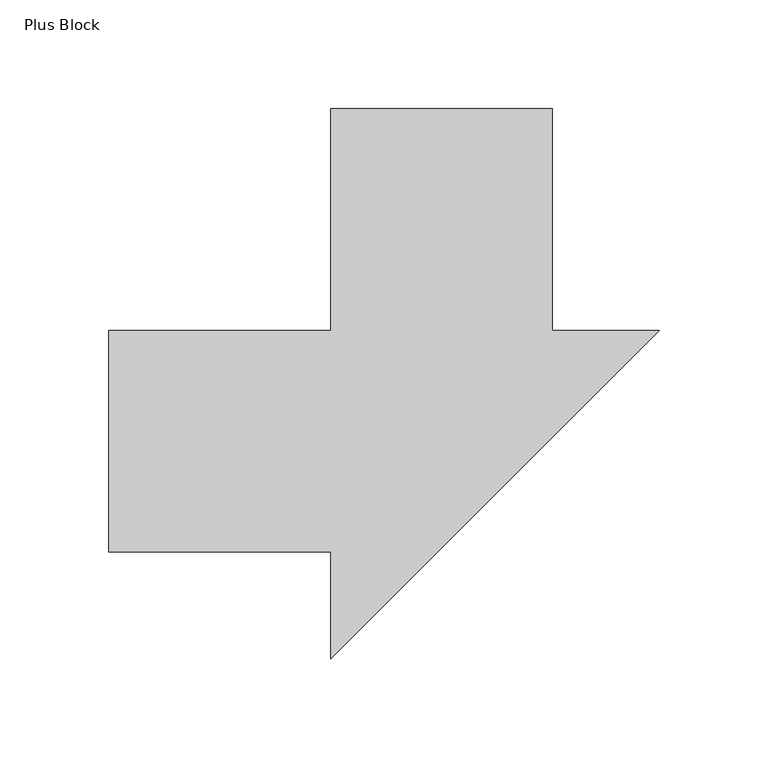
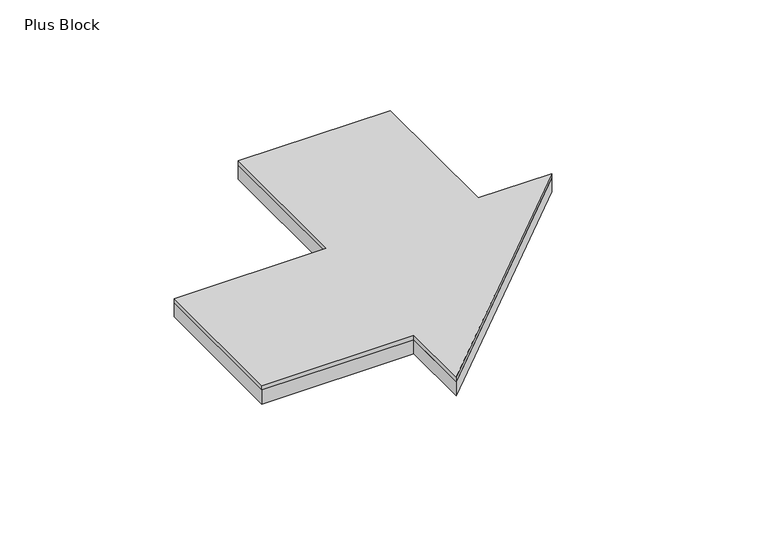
"""IFC4 building model written with IfcOpenShell, lengths in millimetres: proxy geometry, FilzFelt_Plus_Block : Plus Block."""

from ifc_helpers import new_model, si_unit, frame, origin, origin_with_axes, place, context, project, spatial, polyline, outline, extrude, source, transform, mapped, element, save


def plus_block_f8594fd8(model_context):
    return source(origin(), model_context, "Body", "SweptSolid", [
        extrude(outline(polyline([(-50.8333333, -50.8333333), (-152.5, -50.8333333), (-152.5, 50.8333333), (-50.8333333, 50.8333333), (-50.8333333, 152.5), (50.8333333, 152.5), (50.8333333, 50.8333333), (99.8863689, 50.8333333), (-50.8333333, -99.8863689), (-50.8333333, -50.8333333)])), frame((0.0, 0.0, 10.0210937), z_axis=(0.0, 0.0, 1.0), x_axis=(1.0, 0.0, 0.0)), (0.0, 0.0, 1.0), 2.9765625),
        extrude(outline(polyline([(-152.5, -50.8333333), (-152.5, 50.8333333), (-50.8333333, 50.8333333), (-50.8333333, 152.5), (50.8333333, 152.5), (50.8333333, 50.8333333), (99.8863689, 50.8333333), (-50.8333333, -99.8863689), (-50.8333333, -50.8333333), (-152.5, -50.8333333)])), origin_with_axes(), (0.0, 0.0, 1.0), 10.0210938),
    ])


if __name__ == "__main__":
    model = new_model("IFC4")
    model_context = context("Model", 3, world=origin())
    ifc_project = project(units=[si_unit("LENGTHUNIT", "METRE", prefix="MILLI")], contexts=[model_context])
    site = spatial("IfcSite", under=ifc_project)
    building = spatial("IfcBuilding", under=site)
    placement = place(None, origin())
    plus_block_shape = plus_block_f8594fd8(model_context)
    element("IfcBuildingElementProxy", 1, Name="FilzFelt_Plus_Block : Plus Block", ObjectType="FilzFelt_Plus_Block : Plus Block", at=placement, inside=building, context=model_context, shape_type="MappedRepresentation", body=[
        mapped(plus_block_shape, transform((0.0, 0.0, 0.0), x_axis=(1.0, 0.0, 0.0), y_axis=(0.0, 1.0, 0.0), z_axis=(0.0, 0.0, 1.0))),
    ])
    save(model, "model.ifc")
